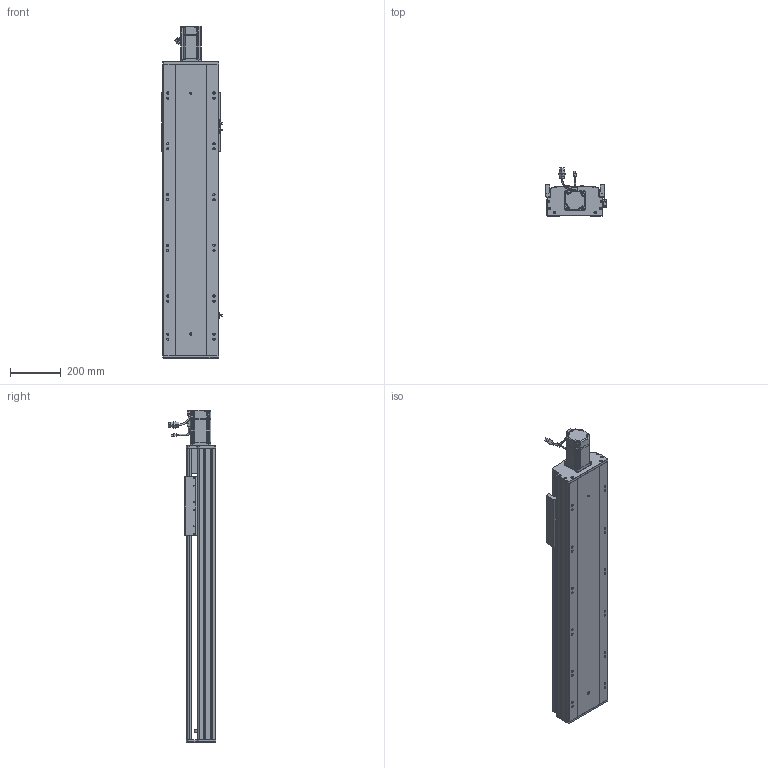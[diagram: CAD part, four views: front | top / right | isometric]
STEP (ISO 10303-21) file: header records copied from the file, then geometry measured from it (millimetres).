
FILE_DESCRIPTION (( 'STEP AP203' ), '1' );
FILE_NAME ('RY220-L2525-300-MK.SLDASM_750.step', '2022-07-04T02:57:39', ( '' ), ( '' ), 'SwSTEP 2.0', 'SolidWorks 2016', '' );
FILE_SCHEMA (( 'CONFIG_CONTROL_DESIGN' ));
Length unit declared in the file: millimetre
Products named in the file (12): 滅袉蝶18-12; 覜茼ん672; RY220半封闭25-32螺母铝滑块; RY220电机支撑座FK20（PCD90M6）; RY220-L2525-300-MK.SLDASM_750; 滅袉蝶18-15; RY220菁釱MK-300_750; RY220ヶ裔啣; 怢湛750W_ECMA-CX0807ES; RY220-俋离672覜茼んえ; RY220-300-奻裔啣-MK_750; RY220綴裔啣
Assembly tree (15 placements, depth 2):
  RY220-L2525-300-MK.SLDASM_750
    RY220菁釱MK-300_750
    RY220电机支撑座FK20（PCD90M6）
    怢湛750W_ECMA-CX0807ES
    滅袉蝶18-12  x2
    RY220ヶ裔啣
    RY220綴裔啣
    覜茼ん672  x3
    RY220半封闭25-32螺母铝滑块
    RY220-300-奻裔啣-MK_750
    RY220-俋离672覜茼んえ
    滅袉蝶18-15  x2
Bounding box: 238.7 x 187.27 x 1308.3 mm (x, y, z)
Volume: 10754351.6 mm3; surface area: 2904951.7 mm2
Topology: 16 solids, 16 shells, 2168 faces, 6006 edges, 3800 vertices
Faces by surface type: cylinder 966, plane 907, cone 233, bspline 36, sphere 16, torus 10
Entity records: 71218 total; most frequent: CARTESIAN_POINT 20299, ORIENTED_EDGE 10584, DIRECTION 9967, EDGE_CURVE 5292, AXIS2_PLACEMENT_3D 3493, VERTEX_POINT 3456, LINE 2981, VECTOR 2981
